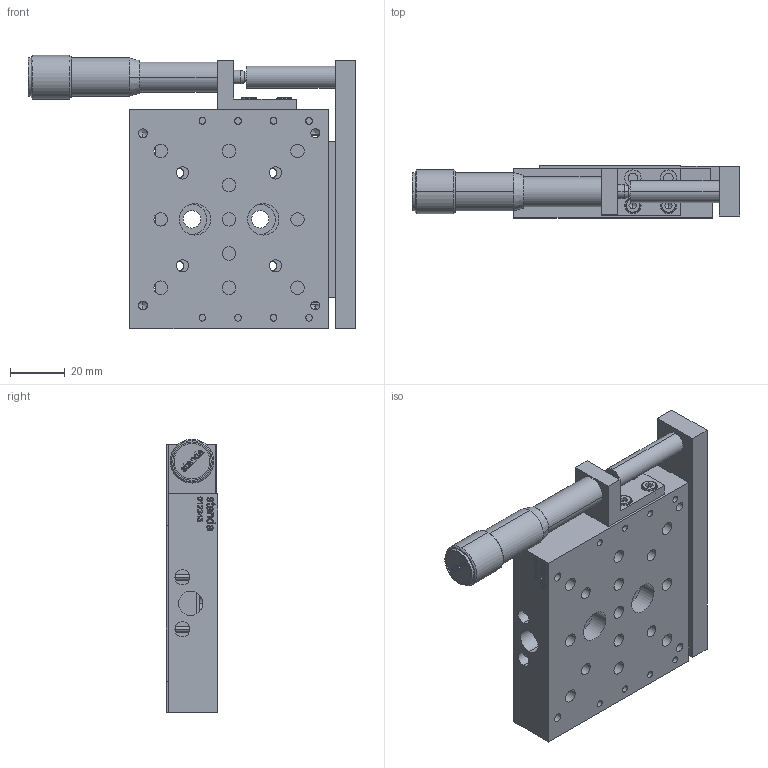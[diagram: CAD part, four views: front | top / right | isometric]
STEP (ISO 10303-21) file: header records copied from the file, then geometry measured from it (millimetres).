
FILE_DESCRIPTION (( 'STEP AP203' ), '1' );
FILE_NAME ('7T68-25T.STEP', '2008-12-02T19:39:57', ( 'Darius' ), ( '' ), 'SwSTEP 2.0', 'SolidWorks 2003240', '' );
FILE_SCHEMA (( 'CONFIG_CONTROL_DESIGN' ));
Length unit declared in the file: millimetre
Products named in the file (1): 7T68-25T
Bounding box: 119.7 x 19.01 x 100.01 mm (x, y, z)
Volume: 110681.2 mm3; surface area: 52433.5 mm2
Topology: 1 solids, 21 shells, 1073 faces, 2787 edges, 1815 vertices
Faces by surface type: plane 406, cylinder 307, bspline 254, cone 106
Entity records: 40494 total; most frequent: CARTESIAN_POINT 15496, ORIENTED_EDGE 5470, DIRECTION 4505, EDGE_CURVE 2735, VERTEX_POINT 1815, AXIS2_PLACEMENT_3D 1596, EDGE_LOOP 1330, LINE 1313
